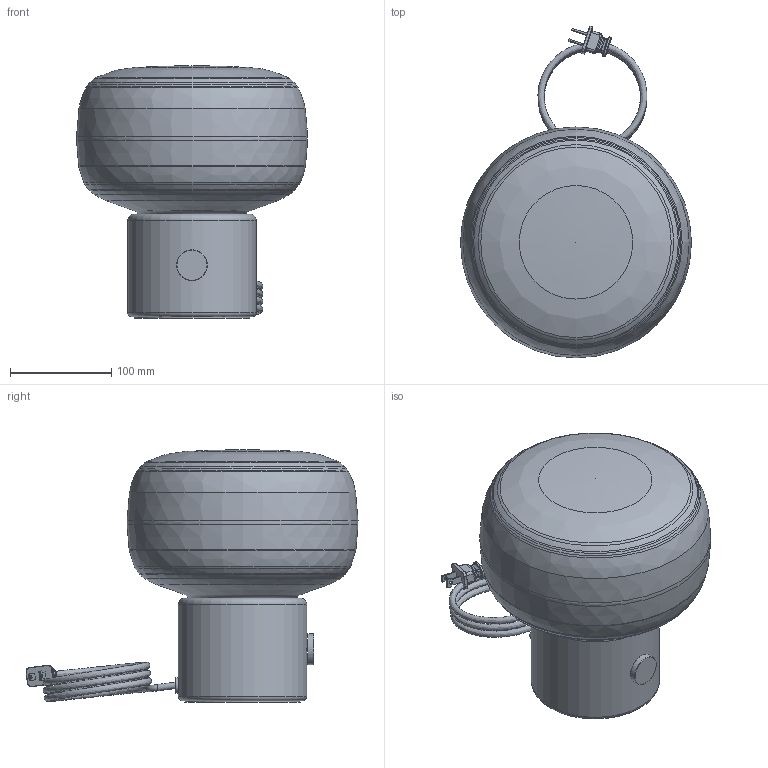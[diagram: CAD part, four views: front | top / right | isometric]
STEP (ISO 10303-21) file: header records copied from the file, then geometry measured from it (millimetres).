
FILE_DESCRIPTION(/* description */ (''),/* implementation_level */ '2;1');
FILE_NAME(/* name */ 'Arca Tall - Ionic Table Lamp.step',/* time_stamp */ '2024-07-26T16:08:34-04:00',/* author */ (''),/* organization */ (''),/* preprocessor_version */ 'ST-DEVELOPER v20',/* originating_system */ 'Autodesk Translation Framework v13.14.0.145',/* authorisation */ '');
FILE_SCHEMA (('AUTOMOTIVE_DESIGN { 1 0 10303 214 3 1 1 }'));
Length unit declared in the file: inch
Products named in the file (19): Marble Base - Ionic Table Lamp - 120V; Coiled - SVT (Blk Fabric); Brass Dial - Dimmer Knob; µ÷¹âÆ÷; 90701000093 ¹â°åE27µÆ×ù_¦Õ375
9mm_ºÚÉ«_CEÈÏÖ¤; 90701000096 M10ÑÀ¹Ü_M10L25mmÄÚ¿×¦
Õ7_²ÄÖÊ£ºÌú_¶Æ°×Ð
¿_RoHS; 90701000098 Ñ¹Ïß°å_PP_314612_º
ÚÉ«; 90701000097 M10Áù½Ç±¡ÂÝÄ¸_M10
_²ÄÖÊ£ºÌú_¶Æ°×Ð¿
_RoHS; M10ÄÚ¾â³ÝËø½ôµæÈ¦
_²ÄÖÊ£ºÌú_¶Æ°×Ð¿
_RoHS; Marble Base; Plastic Insert; Silicone Gasket; T9-5In; BU-T10-5-LED-120V; E26 Base; Rubber Grommet; 2-Pole Plug End; Neoprene Pad; Arc a Petite
Assembly tree (18 placements, depth 4):
  Marble Base - Ionic Table Lamp - 120V
    Coiled - SVT (Blk Fabric)
    Brass Dial - Dimmer Knob
    µ÷¹âÆ÷
    90701000093 ¹â°åE27µÆ×ù_¦Õ375
9mm_ºÚÉ«_CEÈÏÖ¤
    90701000096 M10ÑÀ¹Ü_M10L25mmÄÚ¿×¦
Õ7_²ÄÖÊ£ºÌú_¶Æ°×Ð
¿_RoHS
    90701000098 Ñ¹Ïß°å_PP_314612_º
ÚÉ«
    90701000097 M10Áù½Ç±¡ÂÝÄ¸_M10
_²ÄÖÊ£ºÌú_¶Æ°×Ð¿
_RoHS
    M10ÄÚ¾â³ÝËø½ôµæÈ¦
_²ÄÖÊ£ºÌú_¶Æ°×Ð¿
_RoHS
    Marble Base
    Plastic Insert
    Silicone Gasket
    T9-5In
      BU-T10-5-LED-120V
        E26 Base
    Rubber Grommet
    2-Pole Plug End
    Neoprene Pad
    Arc a Petite
Bounding box: 228.6 x 328.65 x 250.07 mm (x, y, z)
Volume: 1305734.8 mm3; surface area: 572282 mm2
Topology: 17 solids, 18 shells, 2053 faces, 5420 edges, 3548 vertices
Faces by surface type: plane 998, bspline 833, cylinder 130, torus 53, cone 38, sphere 1
Full cylindrical faces by diameter (mm): 3.175 x2, 4.092 x1, 5.08 x1, 6.35 x2, 6.7 x1, 7 x1, 7.62 x2, 8.128 x1, 8.3 x1, 8.376 x14, 10 x16, 10.16 x1, 10.5 x1, 10.922 x1, 11 x1, 11.684 x1, 14 x1, 15.24 x2, 16 x1, 16.8 x1, 21 x1, 25.4 x1, 27 x1, 30.48 x1, 35.5 x1, 37.5 x1, 39.37 x1, 41.402 x1, 80.518 x1, 82.55 x1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
Entity records: 79568 total; most frequent: CARTESIAN_POINT 33598, ORIENTED_EDGE 10828, DIRECTION 6681, EDGE_CURVE 5415, VERTEX_POINT 3548, LINE 3295, VECTOR 3295, EDGE_LOOP 2233
